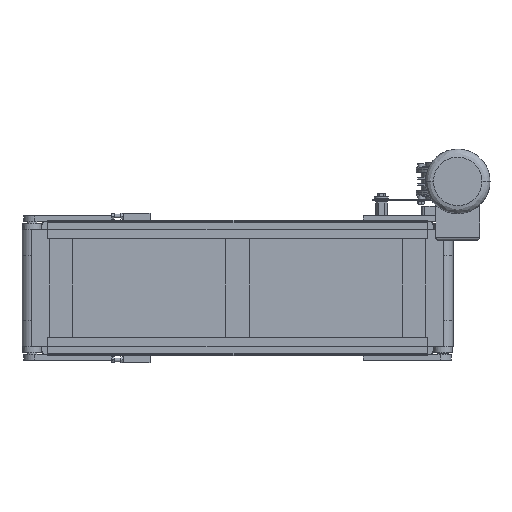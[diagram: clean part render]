
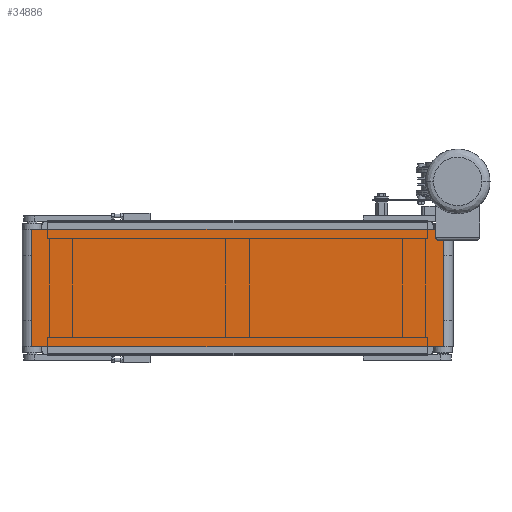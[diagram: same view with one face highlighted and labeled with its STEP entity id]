
A CAD part, front view. The second image highlights one B-rep face of the part: STEP entity #34886.
In plain terms, the highlighted planar face has unit normal (0, -1, 0).
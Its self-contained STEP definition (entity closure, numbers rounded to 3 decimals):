
#1618 = CARTESIAN_POINT ( 'NONE',  ( -350., -17., 100. ) ) ;
#3260 = VECTOR ( 'NONE', #41673, 1000. ) ;
#3473 = DIRECTION ( 'NONE',  ( 1., 0., 0. ) ) ;
#4981 = LINE ( 'NONE', #1618, #43891 ) ;
#6841 = CARTESIAN_POINT ( 'NONE',  ( -350., -17., -100. ) ) ;
#7936 = VERTEX_POINT ( 'NONE', #43817 ) ;
#8886 = VERTEX_POINT ( 'NONE', #42260 ) ;
#9171 = VECTOR ( 'NONE', #26164, 1000. ) ;
#9504 = ORIENTED_EDGE ( 'NONE', *, *, #33571, .F. ) ;
#11592 = EDGE_CURVE ( 'NONE', #7936, #8886, #36478, .T. ) ;
#11747 = DIRECTION ( 'NONE',  ( 0., 0., 1. ) ) ;
#12235 = CARTESIAN_POINT ( 'NONE',  ( -350., -17., 100. ) ) ;
#14261 = AXIS2_PLACEMENT_3D ( 'NONE', #28151, #42273, #11747 ) ;
#14821 = EDGE_CURVE ( 'NONE', #23076, #8886, #28005, .T. ) ;
#15133 = FACE_OUTER_BOUND ( 'NONE', #16624, .T. ) ;
#16624 = EDGE_LOOP ( 'NONE', ( #31736, #33618, #9504, #35032 ) ) ;
#20817 = CARTESIAN_POINT ( 'NONE',  ( 350., -17., 100. ) ) ;
#21747 = CARTESIAN_POINT ( 'NONE',  ( 350., -17., 100. ) ) ;
#23076 = VERTEX_POINT ( 'NONE', #21747 ) ;
#24768 = VERTEX_POINT ( 'NONE', #40418 ) ;
#25624 = DIRECTION ( 'NONE',  ( 0., 0., -1. ) ) ;
#26164 = DIRECTION ( 'NONE',  ( 1., 0., 0. ) ) ;
#28005 = LINE ( 'NONE', #20817, #3260 ) ;
#28151 = CARTESIAN_POINT ( 'NONE',  ( -350., -17., 100. ) ) ;
#29313 = LINE ( 'NONE', #12235, #9171 ) ;
#31736 = ORIENTED_EDGE ( 'NONE', *, *, #11592, .T. ) ;
#33571 = EDGE_CURVE ( 'NONE', #24768, #23076, #29313, .T. ) ;
#33618 = ORIENTED_EDGE ( 'NONE', *, *, #14821, .F. ) ;
#34886 = ADVANCED_FACE ( 'NONE', ( #15133 ), #35092, .F. ) ;
#35032 = ORIENTED_EDGE ( 'NONE', *, *, #43880, .T. ) ;
#35092 = PLANE ( 'NONE',  #14261 ) ;
#36478 = LINE ( 'NONE', #6841, #36848 ) ;
#36848 = VECTOR ( 'NONE', #3473, 1000. ) ;
#40418 = CARTESIAN_POINT ( 'NONE',  ( -350., -17., 100. ) ) ;
#41673 = DIRECTION ( 'NONE',  ( 0., 0., -1. ) ) ;
#42260 = CARTESIAN_POINT ( 'NONE',  ( 350., -17., -100. ) ) ;
#42273 = DIRECTION ( 'NONE',  ( 0., 1., 0. ) ) ;
#43817 = CARTESIAN_POINT ( 'NONE',  ( -350., -17., -100. ) ) ;
#43880 = EDGE_CURVE ( 'NONE', #24768, #7936, #4981, .T. ) ;
#43891 = VECTOR ( 'NONE', #25624, 1000. ) ;
